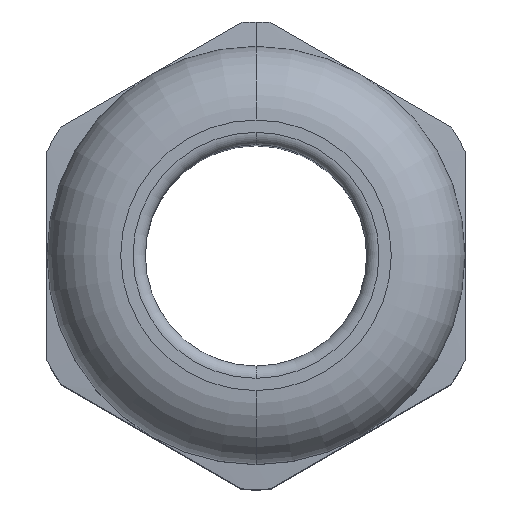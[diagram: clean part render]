
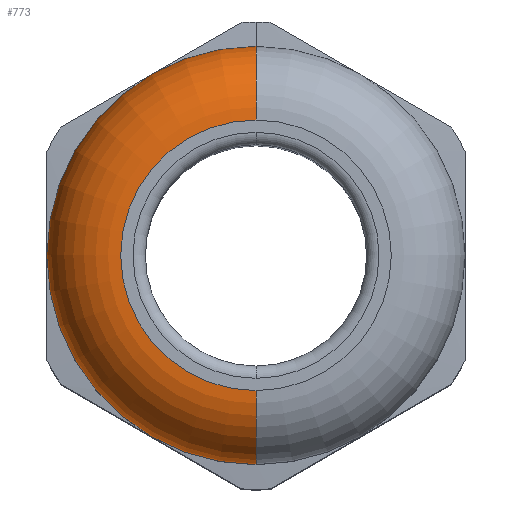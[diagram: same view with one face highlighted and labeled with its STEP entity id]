
A CAD part, top view. The second image highlights one B-rep face of the part: STEP entity #773.
In plain terms, the highlighted toroidal (fillet/blend) face has major radius 5.5 mm and minor radius 3 mm.
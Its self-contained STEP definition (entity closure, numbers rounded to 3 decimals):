
#315 = VERTEX_POINT ( 'NONE', #1492 ) ;
#320 = VERTEX_POINT ( 'NONE', #1488 ) ;
#321 = VERTEX_POINT ( 'NONE', #1483 ) ;
#326 = EDGE_CURVE ( 'NONE', #357, #321, #1478, .T. ) ;
#337 = EDGE_CURVE ( 'NONE', #320, #315, #1631, .T. ) ;
#357 = VERTEX_POINT ( 'NONE', #1771 ) ;
#595 = ORIENTED_EDGE ( 'NONE', *, *, #326, .F. ) ;
#773 = ADVANCED_FACE ( 'NONE', ( #2328 ), #2327, .T. ) ;
#774 = EDGE_LOOP ( 'NONE', ( #595, #863, #896, #807 ) ) ;
#803 = EDGE_CURVE ( 'NONE', #357, #320, #2452, .T. ) ;
#807 = ORIENTED_EDGE ( 'NONE', *, *, #875, .F. ) ;
#863 = ORIENTED_EDGE ( 'NONE', *, *, #803, .T. ) ;
#875 = EDGE_CURVE ( 'NONE', #321, #315, #2597, .T. ) ;
#896 = ORIENTED_EDGE ( 'NONE', *, *, #337, .T. ) ;
#1469 = DIRECTION ( 'NONE',  ( 0., 1., 0. ) ) ;
#1470 = DIRECTION ( 'NONE',  ( 1., 0., 0. ) ) ;
#1471 = AXIS2_PLACEMENT_3D ( 'NONE', #1476, #1470, #1469 ) ;
#1476 = CARTESIAN_POINT ( 'NONE',  ( 0., -5.5, 27. ) ) ;
#1478 = CIRCLE ( 'NONE', #1471, 3. ) ;
#1483 = CARTESIAN_POINT ( 'NONE',  ( 0., -8.5, 27. ) ) ;
#1488 = CARTESIAN_POINT ( 'NONE',  ( 0., 5.5, 30. ) ) ;
#1492 = CARTESIAN_POINT ( 'NONE',  ( 0., 8.5, 27. ) ) ;
#1627 = DIRECTION ( 'NONE',  ( 0., 0., 1. ) ) ;
#1628 = DIRECTION ( 'NONE',  ( -1., 0., 0. ) ) ;
#1629 = CARTESIAN_POINT ( 'NONE',  ( 0., 5.5, 27. ) ) ;
#1630 = AXIS2_PLACEMENT_3D ( 'NONE', #1629, #1628, #1627 ) ;
#1631 = CIRCLE ( 'NONE', #1630, 3. ) ;
#1771 = CARTESIAN_POINT ( 'NONE',  ( 0., -5.5, 30. ) ) ;
#2327 = TOROIDAL_SURFACE ( 'NONE', #2426, 5.5, 3. ) ;
#2328 = FACE_OUTER_BOUND ( 'NONE', #774, .T. ) ;
#2334 = CARTESIAN_POINT ( 'NONE',  ( 0., 0., 27. ) ) ;
#2424 = DIRECTION ( 'NONE',  ( 0., 1., 0. ) ) ;
#2425 = DIRECTION ( 'NONE',  ( 0., 0., -1. ) ) ;
#2426 = AXIS2_PLACEMENT_3D ( 'NONE', #2334, #2425, #2424 ) ;
#2444 = DIRECTION ( 'NONE',  ( 0., 1., 0. ) ) ;
#2445 = DIRECTION ( 'NONE',  ( 0., 0., -1. ) ) ;
#2446 = CARTESIAN_POINT ( 'NONE',  ( 0., 0., 30. ) ) ;
#2447 = AXIS2_PLACEMENT_3D ( 'NONE', #2446, #2445, #2444 ) ;
#2452 = CIRCLE ( 'NONE', #2447, 5.5 ) ;
#2595 = CARTESIAN_POINT ( 'NONE',  ( 0., 0., 27. ) ) ;
#2597 = CIRCLE ( 'NONE', #2803, 8.5 ) ;
#2801 = DIRECTION ( 'NONE',  ( 0., 1., 0. ) ) ;
#2802 = DIRECTION ( 'NONE',  ( 0., 0., -1. ) ) ;
#2803 = AXIS2_PLACEMENT_3D ( 'NONE', #2595, #2802, #2801 ) ;
